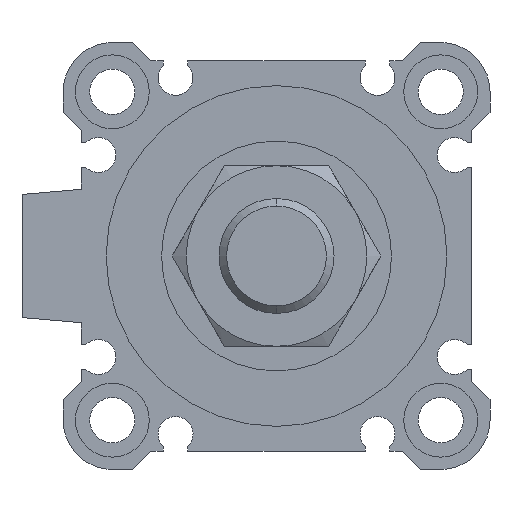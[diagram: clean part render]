
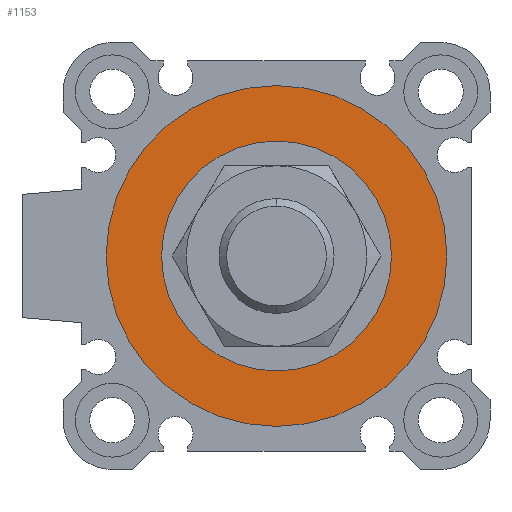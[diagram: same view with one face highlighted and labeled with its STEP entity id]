
A CAD part, left-side view. The second image highlights one B-rep face of the part: STEP entity #1153.
In plain terms, the highlighted planar face has unit normal (-1, 0, 0).
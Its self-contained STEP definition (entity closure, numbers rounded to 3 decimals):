
#24 = FACE_OUTER_BOUND ( 'NONE', #2506, .T. ) ;
#57 = CARTESIAN_POINT ( 'NONE',  ( 3.3, 0., 20.75 ) ) ;
#254 = EDGE_CURVE ( 'NONE', #1648, #3343, #2531, .T. ) ;
#359 = CARTESIAN_POINT ( 'NONE',  ( 3.3, 0., 0. ) ) ;
#455 = AXIS2_PLACEMENT_3D ( 'NONE', #4261, #6425, #3735 ) ;
#484 = AXIS2_PLACEMENT_3D ( 'NONE', #2554, #6454, #4828 ) ;
#588 = DIRECTION ( 'NONE',  ( 1., 0., 0. ) ) ;
#621 = CARTESIAN_POINT ( 'NONE',  ( 3.3, 0., -20.75 ) ) ;
#677 = CARTESIAN_POINT ( 'NONE',  ( 3.3, 0., 14. ) ) ;
#737 = CIRCLE ( 'NONE', #3694, 20.75 ) ;
#1140 = VERTEX_POINT ( 'NONE', #621 ) ;
#1153 = ADVANCED_FACE ( 'NONE', ( #24, #2246 ), #4951, .F. ) ;
#1183 = CARTESIAN_POINT ( 'NONE',  ( 3.3, 0., 0. ) ) ;
#1490 = DIRECTION ( 'NONE',  ( 0., 0., -1. ) ) ;
#1587 = CIRCLE ( 'NONE', #455, 14. ) ;
#1648 = VERTEX_POINT ( 'NONE', #677 ) ;
#1949 = CARTESIAN_POINT ( 'NONE',  ( 3.3, 0., -14. ) ) ;
#2246 = FACE_BOUND ( 'NONE', #6876, .T. ) ;
#2506 = EDGE_LOOP ( 'NONE', ( #5202, #4333 ) ) ;
#2531 = CIRCLE ( 'NONE', #3224, 14. ) ;
#2554 = CARTESIAN_POINT ( 'NONE',  ( 3.3, 0., 0. ) ) ;
#3059 = DIRECTION ( 'NONE',  ( 1., 0., 0. ) ) ;
#3098 = CIRCLE ( 'NONE', #484, 20.75 ) ;
#3224 = AXIS2_PLACEMENT_3D ( 'NONE', #4187, #6491, #1490 ) ;
#3260 = ORIENTED_EDGE ( 'NONE', *, *, #6018, .T. ) ;
#3343 = VERTEX_POINT ( 'NONE', #1949 ) ;
#3694 = AXIS2_PLACEMENT_3D ( 'NONE', #359, #3059, #5672 ) ;
#3735 = DIRECTION ( 'NONE',  ( 0., 0., -1. ) ) ;
#3908 = EDGE_CURVE ( 'NONE', #6721, #1140, #737, .T. ) ;
#4187 = CARTESIAN_POINT ( 'NONE',  ( 3.3, 0., 0. ) ) ;
#4261 = CARTESIAN_POINT ( 'NONE',  ( 3.3, 0., 0. ) ) ;
#4333 = ORIENTED_EDGE ( 'NONE', *, *, #4349, .F. ) ;
#4349 = EDGE_CURVE ( 'NONE', #1140, #6721, #3098, .T. ) ;
#4415 = DIRECTION ( 'NONE',  ( 0., 1., 0. ) ) ;
#4590 = AXIS2_PLACEMENT_3D ( 'NONE', #1183, #588, #4415 ) ;
#4828 = DIRECTION ( 'NONE',  ( 0., 0., -1. ) ) ;
#4951 = PLANE ( 'NONE',  #4590 ) ;
#5202 = ORIENTED_EDGE ( 'NONE', *, *, #3908, .F. ) ;
#5672 = DIRECTION ( 'NONE',  ( 0., 0., -1. ) ) ;
#6018 = EDGE_CURVE ( 'NONE', #3343, #1648, #1587, .T. ) ;
#6425 = DIRECTION ( 'NONE',  ( 1., 0., 0. ) ) ;
#6454 = DIRECTION ( 'NONE',  ( 1., 0., 0. ) ) ;
#6491 = DIRECTION ( 'NONE',  ( 1., 0., 0. ) ) ;
#6721 = VERTEX_POINT ( 'NONE', #57 ) ;
#6774 = ORIENTED_EDGE ( 'NONE', *, *, #254, .T. ) ;
#6876 = EDGE_LOOP ( 'NONE', ( #6774, #3260 ) ) ;
